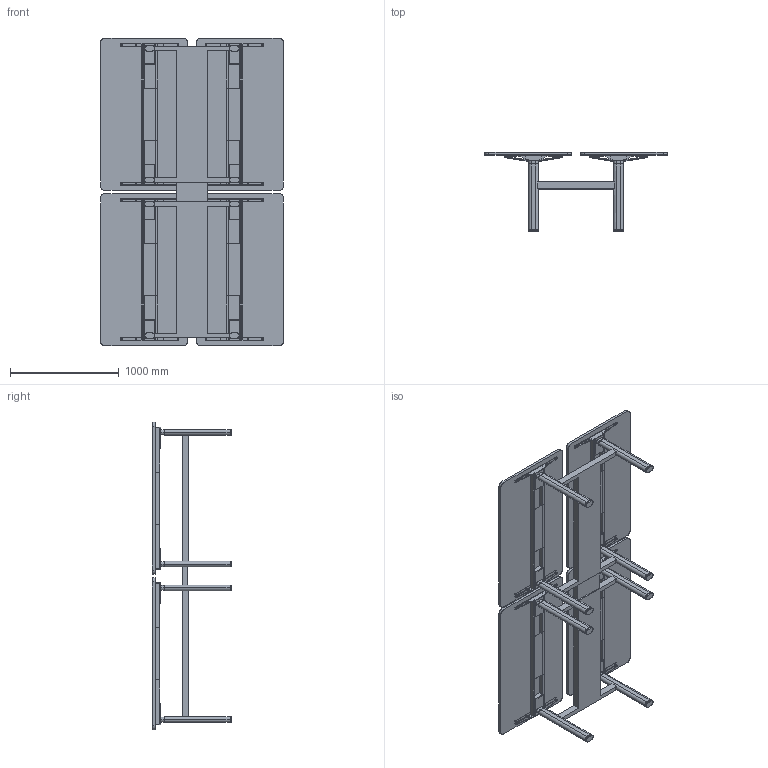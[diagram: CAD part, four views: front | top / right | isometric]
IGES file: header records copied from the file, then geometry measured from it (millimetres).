
Start section: SolidWorks IGES file using analytic representation for surfaces
Global section: file name: C:\Users\simone.cerana\OneDrive - Gruppo Tecno\Desktop\CHINA\DISEGNI DI SERIE\ASSIEMI LISTINO\AXIS LISTINO\AX2816ST.IGS; native system: SolidWorks 2024; preprocessor: SolidWorks 2024; author: simone.cerana; date: 260508.091923; units: millimetre
Bounding box: 1680 x 729.39 x 2830 mm (x, y, z)
Surface area: 15105637.3 mm2 (no closed solid volume)
Topology: 0 solids, 0 shells, 1086 faces, 12728 edges, 12712 vertices
Faces by surface type: revolution 544, bspline 542
